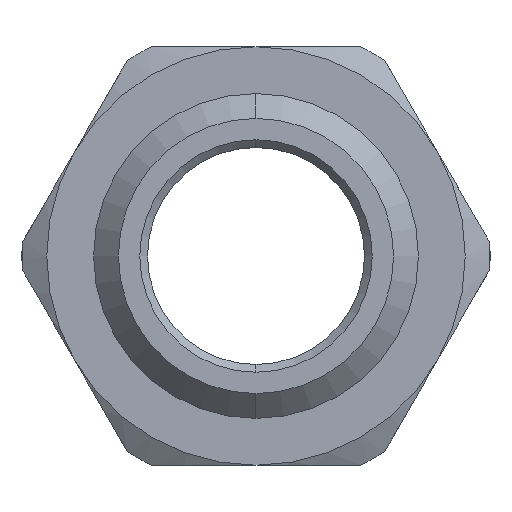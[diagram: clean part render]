
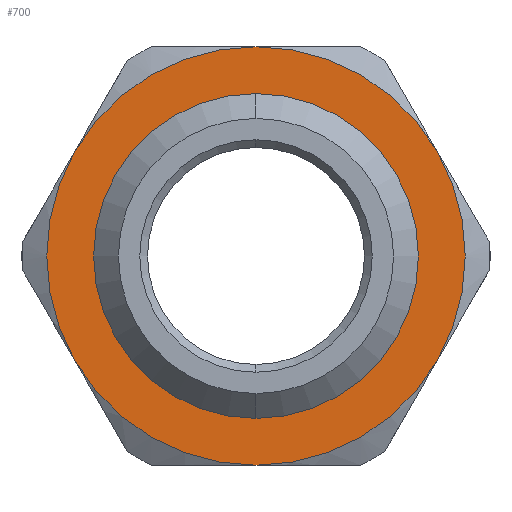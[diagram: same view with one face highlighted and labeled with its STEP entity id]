
A CAD part, left-side view. The second image highlights one B-rep face of the part: STEP entity #700.
In plain terms, the highlighted planar face has unit normal (-1, 0, 0).
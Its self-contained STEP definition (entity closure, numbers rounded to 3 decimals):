
#16 = EDGE_LOOP ( 'NONE', ( #1604, #702, #1758, #1053, #1765, #1183 ) ) ;
#54 = CIRCLE ( 'NONE', #1103, 13.5 ) ;
#75 = CIRCLE ( 'NONE', #823, 9.8 ) ;
#92 = CIRCLE ( 'NONE', #401, 13.5 ) ;
#138 = CIRCLE ( 'NONE', #208, 13.5 ) ;
#208 = AXIS2_PLACEMENT_3D ( 'NONE', #1384, #704, #1293 ) ;
#219 = DIRECTION ( 'NONE',  ( 0., 0., -1. ) ) ;
#233 = VERTEX_POINT ( 'NONE', #1252 ) ;
#290 = CARTESIAN_POINT ( 'NONE',  ( -26., 20.588, 0. ) ) ;
#291 = EDGE_CURVE ( 'NONE', #1477, #676, #92, .T. ) ;
#342 = CARTESIAN_POINT ( 'NONE',  ( -26., 0., 0. ) ) ;
#351 = VERTEX_POINT ( 'NONE', #1097 ) ;
#401 = AXIS2_PLACEMENT_3D ( 'NONE', #1047, #930, #777 ) ;
#404 = CARTESIAN_POINT ( 'NONE',  ( -26., -11.691, -6.75 ) ) ;
#470 = EDGE_CURVE ( 'NONE', #471, #1179, #1466, .T. ) ;
#471 = VERTEX_POINT ( 'NONE', #893 ) ;
#485 = ORIENTED_EDGE ( 'NONE', *, *, #1203, .T. ) ;
#510 = VERTEX_POINT ( 'NONE', #1325 ) ;
#533 = EDGE_CURVE ( 'NONE', #510, #233, #1535, .T. ) ;
#538 = CARTESIAN_POINT ( 'NONE',  ( -26., -11.691, 6.75 ) ) ;
#543 = EDGE_CURVE ( 'NONE', #233, #1477, #54, .T. ) ;
#594 = CARTESIAN_POINT ( 'NONE',  ( -26., 0., 0. ) ) ;
#628 = DIRECTION ( 'NONE',  ( 0., 0., -1. ) ) ;
#642 = EDGE_CURVE ( 'NONE', #351, #1625, #138, .T. ) ;
#676 = VERTEX_POINT ( 'NONE', #404 ) ;
#700 = ADVANCED_FACE ( 'NONE', ( #1555, #1455 ), #981, .F. ) ;
#702 = ORIENTED_EDGE ( 'NONE', *, *, #969, .F. ) ;
#704 = DIRECTION ( 'NONE',  ( 1., 0., 0. ) ) ;
#733 = CIRCLE ( 'NONE', #1079, 13.5 ) ;
#777 = DIRECTION ( 'NONE',  ( 0., 0., -1. ) ) ;
#786 = DIRECTION ( 'NONE',  ( 0., 0., -1. ) ) ;
#803 = DIRECTION ( 'NONE',  ( 0., 0., -1. ) ) ;
#823 = AXIS2_PLACEMENT_3D ( 'NONE', #1350, #933, #1812 ) ;
#848 = AXIS2_PLACEMENT_3D ( 'NONE', #290, #918, #628 ) ;
#882 = AXIS2_PLACEMENT_3D ( 'NONE', #1744, #1492, #1026 ) ;
#893 = CARTESIAN_POINT ( 'NONE',  ( -26., 0., -9.8 ) ) ;
#918 = DIRECTION ( 'NONE',  ( 1., 0., 0. ) ) ;
#930 = DIRECTION ( 'NONE',  ( 1., 0., 0. ) ) ;
#933 = DIRECTION ( 'NONE',  ( 1., 0., 0. ) ) ;
#940 = EDGE_CURVE ( 'NONE', #1625, #510, #733, .T. ) ;
#969 = EDGE_CURVE ( 'NONE', #676, #351, #1644, .T. ) ;
#981 = PLANE ( 'NONE',  #848 ) ;
#1026 = DIRECTION ( 'NONE',  ( 0., 0., -1. ) ) ;
#1041 = CARTESIAN_POINT ( 'NONE',  ( -26., 0., 0. ) ) ;
#1047 = CARTESIAN_POINT ( 'NONE',  ( -26., 0., 0. ) ) ;
#1053 = ORIENTED_EDGE ( 'NONE', *, *, #543, .F. ) ;
#1074 = CARTESIAN_POINT ( 'NONE',  ( -26., 11.691, -6.75 ) ) ;
#1079 = AXIS2_PLACEMENT_3D ( 'NONE', #1041, #1311, #786 ) ;
#1095 = DIRECTION ( 'NONE',  ( 1., 0., 0. ) ) ;
#1097 = CARTESIAN_POINT ( 'NONE',  ( -26., 0., -13.5 ) ) ;
#1103 = AXIS2_PLACEMENT_3D ( 'NONE', #1332, #1728, #1250 ) ;
#1156 = DIRECTION ( 'NONE',  ( 1., 0., 0. ) ) ;
#1178 = EDGE_LOOP ( 'NONE', ( #1569, #485 ) ) ;
#1179 = VERTEX_POINT ( 'NONE', #1438 ) ;
#1183 = ORIENTED_EDGE ( 'NONE', *, *, #940, .F. ) ;
#1199 = AXIS2_PLACEMENT_3D ( 'NONE', #594, #1156, #219 ) ;
#1203 = EDGE_CURVE ( 'NONE', #1179, #471, #75, .T. ) ;
#1250 = DIRECTION ( 'NONE',  ( 0., 0., -1. ) ) ;
#1252 = CARTESIAN_POINT ( 'NONE',  ( -26., 0., 13.5 ) ) ;
#1293 = DIRECTION ( 'NONE',  ( 0., 0., -1. ) ) ;
#1311 = DIRECTION ( 'NONE',  ( 1., 0., 0. ) ) ;
#1325 = CARTESIAN_POINT ( 'NONE',  ( -26., 11.691, 6.75 ) ) ;
#1332 = CARTESIAN_POINT ( 'NONE',  ( -26., 0., 0. ) ) ;
#1350 = CARTESIAN_POINT ( 'NONE',  ( -26., 0., 0. ) ) ;
#1384 = CARTESIAN_POINT ( 'NONE',  ( -26., 0., 0. ) ) ;
#1438 = CARTESIAN_POINT ( 'NONE',  ( -26., 0., 9.8 ) ) ;
#1455 = FACE_OUTER_BOUND ( 'NONE', #16, .T. ) ;
#1466 = CIRCLE ( 'NONE', #1567, 9.8 ) ;
#1477 = VERTEX_POINT ( 'NONE', #538 ) ;
#1492 = DIRECTION ( 'NONE',  ( 1., 0., 0. ) ) ;
#1535 = CIRCLE ( 'NONE', #1199, 13.5 ) ;
#1555 = FACE_BOUND ( 'NONE', #1178, .T. ) ;
#1567 = AXIS2_PLACEMENT_3D ( 'NONE', #342, #1095, #803 ) ;
#1569 = ORIENTED_EDGE ( 'NONE', *, *, #470, .T. ) ;
#1604 = ORIENTED_EDGE ( 'NONE', *, *, #642, .F. ) ;
#1625 = VERTEX_POINT ( 'NONE', #1074 ) ;
#1644 = CIRCLE ( 'NONE', #882, 13.5 ) ;
#1728 = DIRECTION ( 'NONE',  ( 1., 0., 0. ) ) ;
#1744 = CARTESIAN_POINT ( 'NONE',  ( -26., 0., 0. ) ) ;
#1758 = ORIENTED_EDGE ( 'NONE', *, *, #291, .F. ) ;
#1765 = ORIENTED_EDGE ( 'NONE', *, *, #533, .F. ) ;
#1812 = DIRECTION ( 'NONE',  ( 0., 0., -1. ) ) ;
